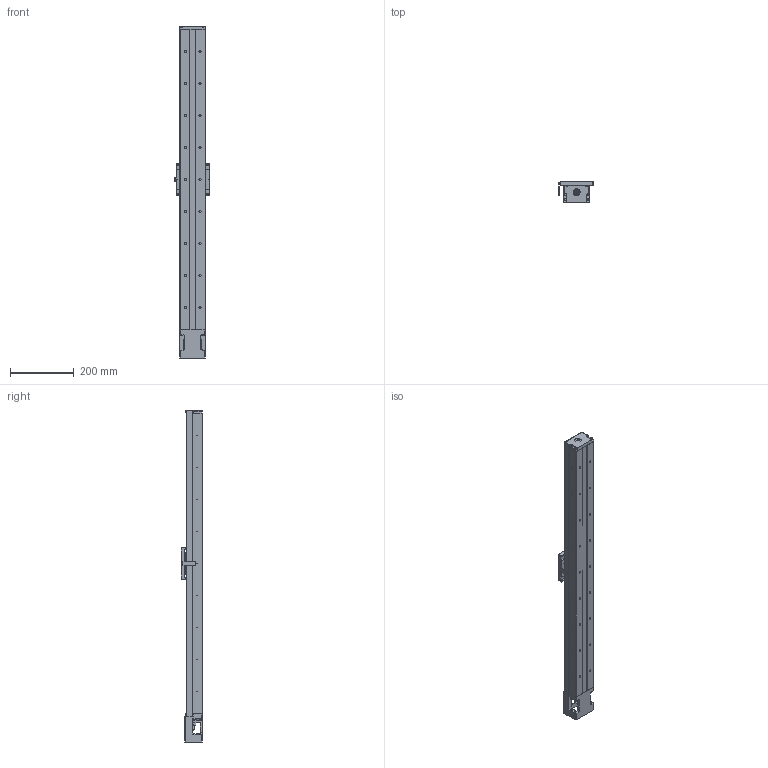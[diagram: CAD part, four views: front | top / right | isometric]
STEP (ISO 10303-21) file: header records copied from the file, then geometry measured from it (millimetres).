
FILE_DESCRIPTION (( 'STEP AP203' ), '1' );
FILE_NAME ('GKAC4580-800-12N-P10-CXXXX-網站用圖.STEP', '2023-04-13T06:29:37', ( '' ), ( '' ), 'SwSTEP 2.0', 'SolidWorks 2019', '' );
FILE_SCHEMA (( 'CONFIG_CONTROL_DESIGN' ));
Length unit declared in the file: millimetre
Products named in the file (3): Group2^GKAC4580-800-12N-P10-CXXXX_defeature-網站用圖_GMT; Group1^GKAC4580-800-12N-P10-CXXXX_defeature-網站用圖_GMT; GKAC4580-800-12N-P10-CXXXX-網站用圖
Assembly tree (2 placements, depth 2):
  GKAC4580-800-12N-P10-CXXXX-網站用圖
    Group1^GKAC4580-800-12N-P10-CXXXX_defeature-網站用圖_GMT
    Group2^GKAC4580-800-12N-P10-CXXXX_defeature-網站用圖_GMT
Bounding box: 108.2 x 67 x 1038 mm (x, y, z)
Volume: 2147226 mm3; surface area: 703575.4 mm2
Topology: 23 solids, 31 shells, 2240 faces, 5923 edges, 3712 vertices
Faces by surface type: plane 981, cylinder 744, torus 224, cone 217, sphere 56, bspline 18
Entity records: 83662 total; most frequent: CARTESIAN_POINT 27350, DIRECTION 12253, ORIENTED_EDGE 11614, EDGE_CURVE 5807, AXIS2_PLACEMENT_3D 4703, VERTEX_POINT 3690, VECTOR 2847, LINE 2847
